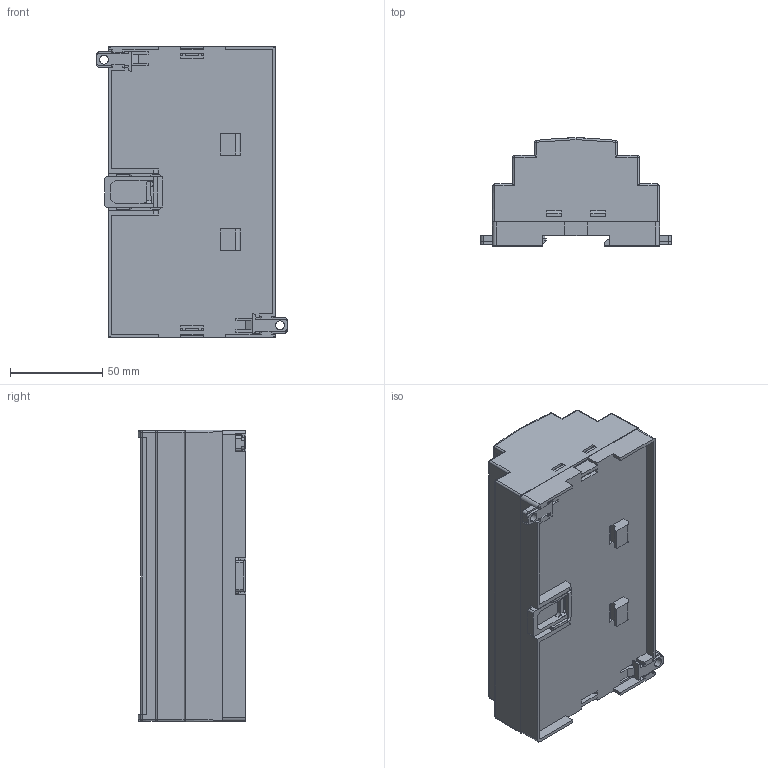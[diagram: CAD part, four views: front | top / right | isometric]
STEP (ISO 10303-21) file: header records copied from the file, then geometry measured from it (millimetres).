
FILE_DESCRIPTION (( 'STEP AP203' ), '1' );
FILE_NAME ('RT-209-A.STEP', '2017-03-22T09:06:32', ( '' ), ( '' ), 'SwSTEP 2.0', 'SolidWorks 2015', '' );
FILE_SCHEMA (( 'CONFIG_CONTROL_DESIGN' ));
Length unit declared in the file: millimetre
Products named in the file (6): RT-209-TOP_BODY_A; RT-209_DIN_BASE; RT-209_Panel; Wall_Mount; Rail_Lock; RT-209-A
Assembly tree (6 placements, depth 2):
  RT-209-A
    RT-209-TOP_BODY_A
    RT-209_DIN_BASE
    RT-209_Panel
    Wall_Mount  x2
    Rail_Lock
Bounding box: 103.12 x 58.42 x 158 mm (x, y, z)
Volume: 108397.1 mm3; surface area: 116361.9 mm2
Topology: 8 solids, 8 shells, 561 faces, 1564 edges, 1013 vertices
Faces by surface type: plane 418, cylinder 120, sphere 12, torus 8, bspline 3
Entity records: 17761 total; most frequent: CARTESIAN_POINT 3148, ORIENTED_EDGE 2992, DIRECTION 2786, EDGE_CURVE 1496, LINE 1236, VECTOR 1236, VERTEX_POINT 973, AXIS2_PLACEMENT_3D 775
